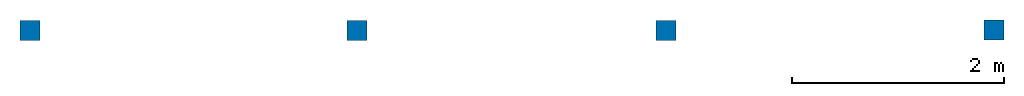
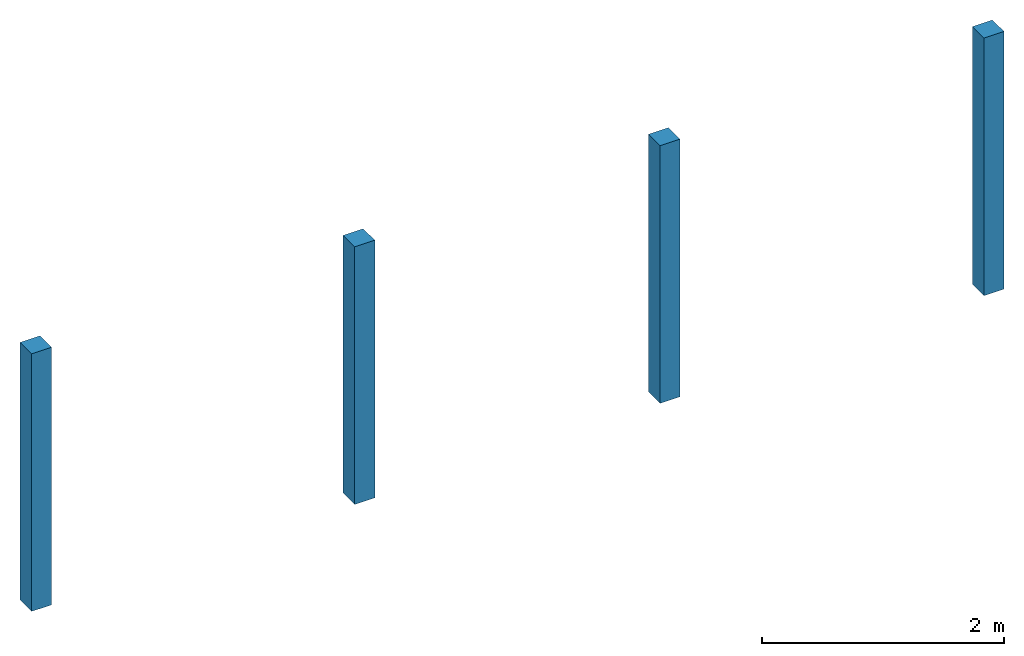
# One storey: 4 columns.
"""IFC2X3 building model written with IfcOpenShell, lengths in metres."""

from ifc_helpers import new_model, entity, si_unit, converted_unit, derived_unit, direction, frame, origin, origin_2d_with_axis, place, context, subcontext, project, spatial, rectangle, extrude, source, transform, mapped, material, type_object, type_shapes, element, save


model = new_model("IFC2X3")

# Units and contexts
model_context = context("Model", 3, precision=1e-05, world=origin(), true_north=direction((6.12303176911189e-17, 1.0)))
context_of_model = context(None, 3, precision=1e-05, world=origin(), true_north=direction((6.12303176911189e-17, 1.0)))
body_context = subcontext(model_context, "Body", "Model", "MODEL_VIEW")
ifc_project = project(units=[si_unit("LENGTHUNIT", "METRE"), si_unit("AREAUNIT", "SQUARE_METRE"), si_unit("VOLUMEUNIT", "CUBIC_METRE"), converted_unit("PLANEANGLEUNIT", "DEGREE", entity("IfcRatioMeasure", 0.0174532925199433), si_unit("PLANEANGLEUNIT", "RADIAN"), dimensions=[0, 0, 0, 0, 0, 0, 0]), si_unit("MASSUNIT", "GRAM", prefix="KILO"), si_unit("TIMEUNIT", "SECOND"), si_unit("FREQUENCYUNIT", "HERTZ"), si_unit("THERMODYNAMICTEMPERATUREUNIT", "DEGREE_CELSIUS"), derived_unit("THERMALTRANSMITTANCEUNIT", [(si_unit("MASSUNIT", "GRAM", prefix="KILO"), 1), (si_unit("THERMODYNAMICTEMPERATUREUNIT", "KELVIN"), -1), (si_unit("TIMEUNIT", "SECOND"), -3)]), derived_unit("VOLUMETRICFLOWRATEUNIT", [(si_unit("LENGTHUNIT", "METRE"), 3), (si_unit("TIMEUNIT", "SECOND"), -1)]), si_unit("ELECTRICCURRENTUNIT", "AMPERE"), si_unit("ELECTRICVOLTAGEUNIT", "VOLT"), si_unit("POWERUNIT", "WATT"), si_unit("FORCEUNIT", "NEWTON", prefix="KILO"), si_unit("ILLUMINANCEUNIT", "LUX"), si_unit("LUMINOUSFLUXUNIT", "LUMEN"), si_unit("LUMINOUSINTENSITYUNIT", "CANDELA"), si_unit("PRESSUREUNIT", "PASCAL")], contexts=[model_context, context_of_model])

# Site, building, storey
site_placement = place(None, origin())
site = spatial("IfcSite", under=ifc_project, at=site_placement, Name="Default", CompositionType="ELEMENT")
building_placement = place(site_placement, origin())
building = spatial("IfcBuilding", under=site, at=building_placement, CompositionType="ELEMENT")
storey_placement = place(building_placement, frame((0.0, 0.0, 3.0)))
storey = spatial("IfcBuildingStorey", under=building, at=storey_placement, Name="2 - RdC", CompositionType="ELEMENT", Elevation=3.0)

# Columns
ifc_material = material(Name="Bois - Bois de construction de dimensions courantes")
column_type = type_object("IfcColumnType", Name="191 x 191mm", PredefinedType="COLUMN", material=ifc_material)
shared_shape = source(origin(), body_context, "Body", "SweptSolid", [
    extrude(rectangle(XDim=0.190999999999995, YDim=0.191, at=origin_2d_with_axis()), frame((0.0955, 0.0954999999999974, 0.0), z_axis=(0.0, 0.0, 1.0), x_axis=(0.0, 1.0, 0.0)), (0.0, 0.0, 1.0), 2.59999999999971),
])
type_shapes(column_type, [shared_shape])
for number, where, name in (
    (1, (6.8462853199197, 5.53281588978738, 0.0), "Poteau Bois:191 x 191mm"),
    (2, (0.836285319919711, 5.52831588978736, 0.0), "Poteau Bois:191 x 191mm"),
    (3, (3.7507853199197, 5.52831588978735, 0.0), "Poteau Bois:191 x 191mm"),
    (4, (-2.2492146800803, 5.52831588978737, 0.0), "Poteau Bois:191 x 191mm"),
):
    element("IfcColumn", number, at=place(storey_placement, frame(where)), inside=storey, type_object=column_type, material=ifc_material, Name=name, ObjectType="191 x 191mm", context=body_context, shape_type="MappedRepresentation", body=[
        mapped(shared_shape, transform((0.0, 0.0, 0.0), scale=1.0)),
    ])

save(model, "model.ifc")
